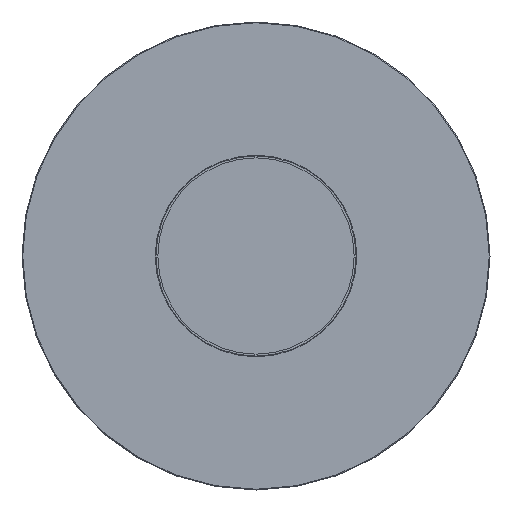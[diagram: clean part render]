
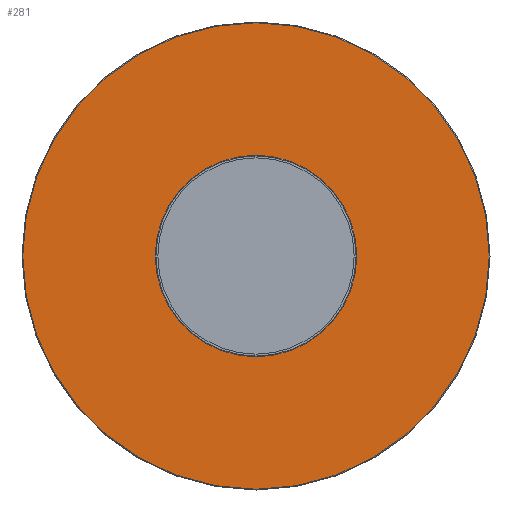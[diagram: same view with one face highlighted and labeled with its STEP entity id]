
A CAD part, front view. The second image highlights one B-rep face of the part: STEP entity #281.
In plain terms, the highlighted planar face has unit normal (0, -1, 0).
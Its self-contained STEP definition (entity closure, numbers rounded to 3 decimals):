
#110=CARTESIAN_POINT('',(0.,457.451,-19.75));
#111=VERTEX_POINT('',#110);
#112=CARTESIAN_POINT('',(0.,457.451,0.));
#113=DIRECTION('',(0.0,1.0,0.0));
#114=DIRECTION('',(0.0,0.0,1.0));
#115=AXIS2_PLACEMENT_3D('',#112,#113,#114);
#116=CIRCLE('',#115,19.75);
#117=EDGE_CURVE('',#111,#111,#116,.T.);
#258=CARTESIAN_POINT('',(0.,457.451,-309.0));
#259=VERTEX_POINT('',#258);
#260=CARTESIAN_POINT('',(0.,457.451,0.));
#261=DIRECTION('',(0.0,1.0,0.0));
#262=DIRECTION('',(0.0,0.0,1.0));
#263=AXIS2_PLACEMENT_3D('',#260,#261,#262);
#264=CIRCLE('',#263,309.0);
#265=EDGE_CURVE('',#259,#259,#264,.T.);
#270=CARTESIAN_POINT('',(0.,457.451,0.));
#271=DIRECTION('',(0.0,-1.0,0.0));
#272=DIRECTION('',(0.0,0.0,1.0));
#273=AXIS2_PLACEMENT_3D('',#270,#271,#272);
#274=PLANE('',#273);
#275=ORIENTED_EDGE('',*,*,#265,.F.);
#276=EDGE_LOOP('',(#275));
#277=FACE_OUTER_BOUND('',#276,.T.);
#278=ORIENTED_EDGE('',*,*,#117,.T.);
#279=EDGE_LOOP('',(#278));
#280=FACE_BOUND('',#279,.T.);
#281=ADVANCED_FACE('',(#277,#280),#274,.T.);
